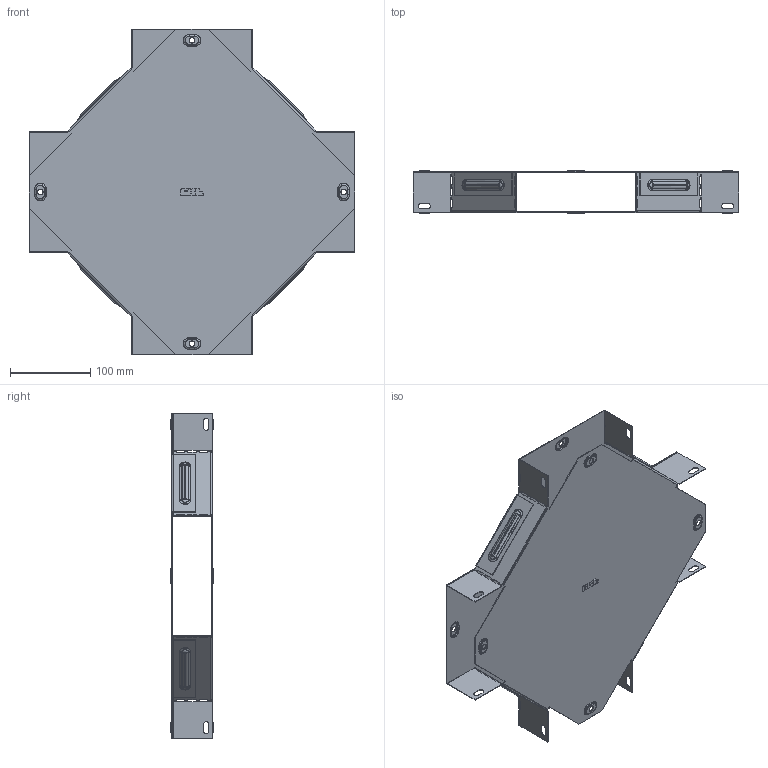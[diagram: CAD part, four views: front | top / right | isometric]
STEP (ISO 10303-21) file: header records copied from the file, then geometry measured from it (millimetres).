
FILE_DESCRIPTION (( 'STEP AP214' ), '1' );
FILE_NAME ('x5015008_捘.STEP', '2019-06-10T07:16:05', ( '砐錪賧瘔蠈錪 Windows' ), ( '' ), 'SwSTEP 2.0', 'SolidWorks 2018', '' );
FILE_SCHEMA (( 'AUTOMOTIVE_DESIGN' ));
Length unit declared in the file: millimetre
Products named in the file (1): x5015008_捘
Bounding box: 405.01 x 53.8 x 405.01 mm (x, y, z)
Volume: 210097.7 mm3; surface area: 529419.9 mm2
Topology: 2 solids, 2 shells, 812 faces, 2292 edges, 1480 vertices
Faces by surface type: plane 406, cylinder 260, torus 128, bspline 18
Entity records: 27251 total; most frequent: CARTESIAN_POINT 5543, ORIENTED_EDGE 4584, DIRECTION 4558, EDGE_CURVE 2292, LINE 1544, VECTOR 1544, AXIS2_PLACEMENT_3D 1507, VERTEX_POINT 1480
